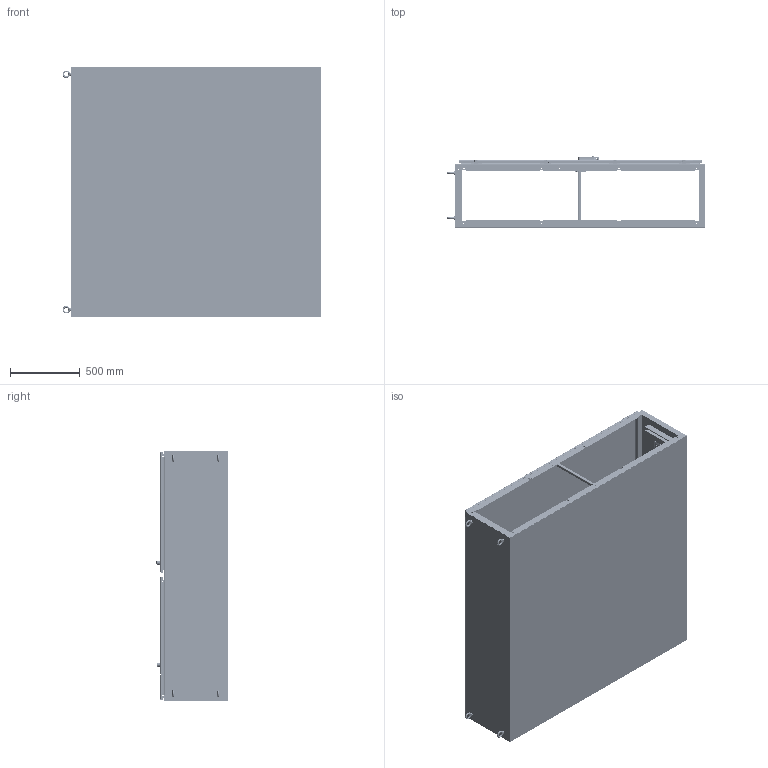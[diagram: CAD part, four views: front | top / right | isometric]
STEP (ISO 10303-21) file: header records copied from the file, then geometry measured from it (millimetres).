
FILE_DESCRIPTION((''),'2;1');
FILE_NAME('MODEL-258_ASM','2021-08-03T10:26:28',('mikek'),('SAGINAW CONTROL & ENGINEERING'),'CREO PARAMETRIC BY PTC INC, 2017260','CREO PARAMETRIC BY PTC INC, 2017260','');
FILE_SCHEMA(('AUTOMOTIVE_DESIGN { 1 0 10303 214 1 1 1 1 }'));
Length unit declared in the file: inch
Products named in the file (138): MODEL-258-R-SD; MODEL-258-BCK; MODEL-258-L-SD; MODEL-258-TP; MODEL-258-BTM; MODEL-258-BB; 127619; 100028; 127619_ASM; MODEL-258-CCA-CHNL; MODEL-258-CCA-STIF; 100062; 127618; 127617; 102535; 100057; MODEL-258-CCASSY_ASM; MODEL-258-MSTR-DR; 100837; 111267; 100882; 129334-HANDLE-STOP; 129334-HANDLE-BASE; 129334-INSERT-SPRING; 129334-HANDLE-PIN; 129334-HANDLE-SHAFT; 129334-HANDLE-LOCK-SCREW; 129334-HANDLE; 129334-COINPROOF-INSERT; 129334-HANDLE-LOCK; 129334-HANDLE-SHAFT-O-RING; 129334-HANDLE_ASM; 129334-LOCK-NUT; 129334-BASE-CAP; 129334-CAM-ADAPTER; 129334-NUT; 129334_ASM; 102237; 100030; 102237_ASM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
Assembly tree (331 placements, depth 5):
  MODEL-258_ASM
    MODEL-258-R-SD
    MODEL-258-BCK
    MODEL-258-L-SD
    MODEL-258-TP
    MODEL-258-BTM
    MODEL-258-BB
    127619_ASM  x2
      127619
      100028
    MODEL-258-CCASSY_ASM
      MODEL-258-CCA-CHNL
      MODEL-258-CCA-STIF
      100062  x4
      127618  x2
      127617  x2
      102535  x8
      100057  x2
    MODEL-258-MASTER-DR-ASSY_ASM
      MODEL-258-MSTR-DR
      100837  x7
      111267
      100882  x12
      129334_ASM
        129334-HANDLE-STOP
        129334-HANDLE-BASE
        129334-HANDLE_ASM
          129334-INSERT-SPRING
          129334-HANDLE-PIN
          129334-HANDLE-SHAFT
          129334-HANDLE-LOCK-SCREW
          129334-HANDLE
          129334-COINPROOF-INSERT
          129334-HANDLE-LOCK
          129334-HANDLE-SHAFT-O-RING
        129334-LOCK-NUT
        129334-BASE-CAP
        129334-CAM-ADAPTER
        129334-NUT  x2
      102237_ASM
        102237
        100030  x2
      MODEL-258-ROD-UPR-MSTR_ASM
        MODEL-258-ROD-UPR-MSTR
        128146
        128145
        128144
        102482  x2
      128143  x2
      112504  x2
      MODEL-258-ROD-LWR-MSTR_ASM
        MODEL-258-ROD-LWR-MSTR
        128146
        128145
        128144
        102482  x2
      MODEL-258-GSKT-MSTR
      128257_ASM  x4
        128257
        126397
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Bounding box: 1861.26 x 511.82 x 1804.01 mm (x, y, z)
Volume: 31955293.5 mm3; surface area: 22328750.3 mm2
Topology: 358 solids, 358 shells, 29730 faces, 77962 edges, 48858 vertices
Faces by surface type: plane 10201, bspline 8519, cylinder 7544, torus 1679, cone 1050, sphere 636, extrusion 101
Entity records: 504976 total; most frequent: CARTESIAN_POINT 193689, ORIENTED_EDGE 45882, DIRECTION 41748, PRESENTATION_STYLE_ASSIGNMENT 23436, STYLED_ITEM 23435, EDGE_CURVE 22941, CURVE_STYLE 22929, AXIS2_PLACEMENT_3D 15661
